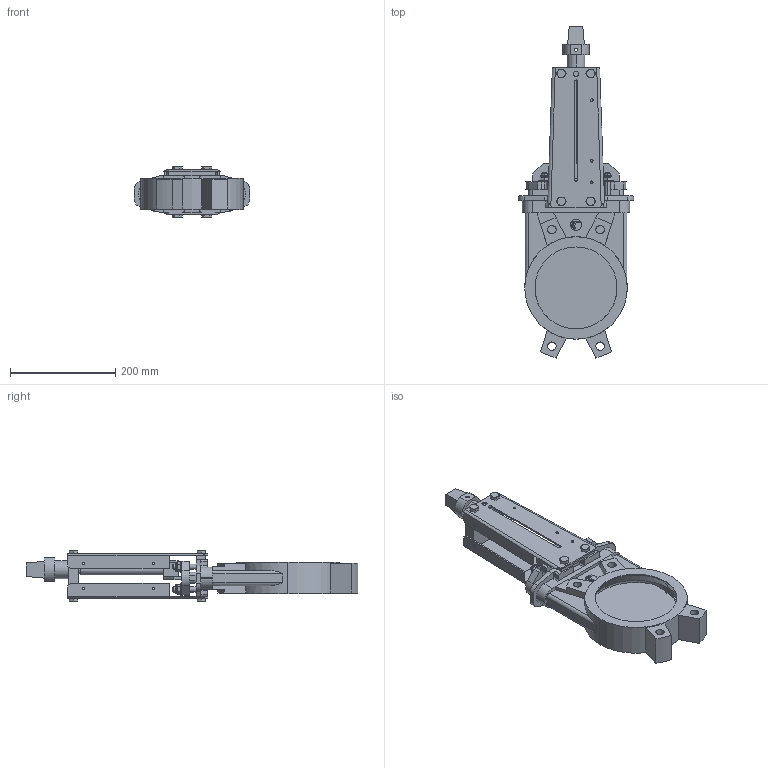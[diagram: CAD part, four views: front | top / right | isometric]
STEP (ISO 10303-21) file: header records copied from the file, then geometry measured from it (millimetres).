
FILE_DESCRIPTION (( 'STEP AP203' ), '1' );
FILE_NAME ('VG S N DN150.STEP', '2010-05-04T07:06:26', ( 'farex' ), ( '' ), 'SwSTEP 2.0', 'SolidWorks 2009', '' );
FILE_SCHEMA (( 'CONFIG_CONTROL_DESIGN' ));
Length unit declared in the file: millimetre
Products named in the file (1): VG S N DN150
Bounding box: 220 x 631.72 x 96.8 mm (x, y, z)
Volume: 2373457.7 mm3; surface area: 463738 mm2
Topology: 3 solids, 8 shells, 702 faces, 1820 edges, 1182 vertices
Faces by surface type: plane 395, cylinder 190, cone 77, bspline 28, torus 12
Entity records: 23615 total; most frequent: CARTESIAN_POINT 6403, ORIENTED_EDGE 3640, DIRECTION 3428, EDGE_CURVE 1820, VERTEX_POINT 1182, AXIS2_PLACEMENT_3D 1163, VECTOR 1102, LINE 1102
